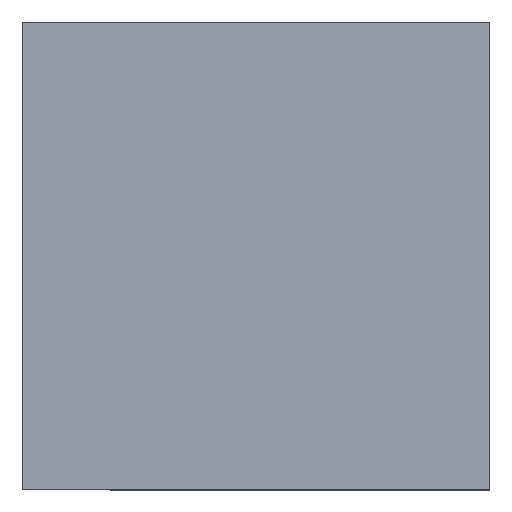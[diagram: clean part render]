
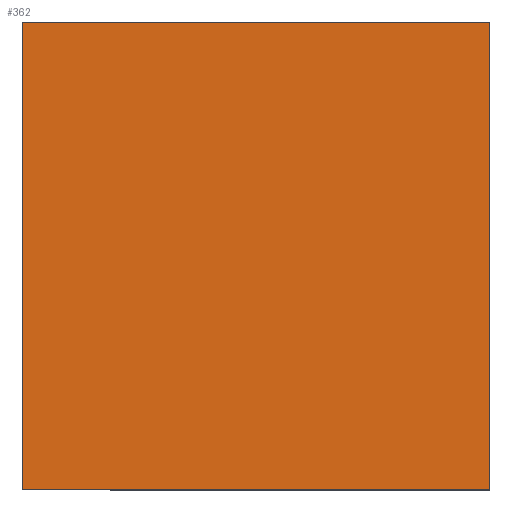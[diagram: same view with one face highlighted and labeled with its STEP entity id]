
A CAD part, top view. The second image highlights one B-rep face of the part: STEP entity #362.
In plain terms, the highlighted planar face has unit normal (0, 0, 1).
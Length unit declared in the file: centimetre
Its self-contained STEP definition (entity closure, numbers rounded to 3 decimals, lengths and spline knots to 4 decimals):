
#20 = LINE ( 'NONE', #364, #398 ) ;
#21 = VERTEX_POINT ( 'NONE', #138 ) ;
#22 = DIRECTION ( 'NONE',  ( -1., 0., 0. ) ) ;
#53 = ORIENTED_EDGE ( 'NONE', *, *, #129, .T. ) ;
#63 = DIRECTION ( 'NONE',  ( 0., -1., 0. ) ) ;
#75 = PLANE ( 'NONE',  #382 ) ;
#78 = CARTESIAN_POINT ( 'NONE',  ( 0., 0., 1000. ) ) ;
#112 = CARTESIAN_POINT ( 'NONE',  ( 1000., 1000., 1000. ) ) ;
#129 = EDGE_CURVE ( 'NONE', #21, #388, #402, .T. ) ;
#131 = VECTOR ( 'NONE', #367, 100. ) ;
#133 = EDGE_CURVE ( 'NONE', #161, #241, #20, .T. ) ;
#138 = CARTESIAN_POINT ( 'NONE',  ( 1000., 0., 1000. ) ) ;
#148 = FACE_OUTER_BOUND ( 'NONE', #416, .T. ) ;
#161 = VERTEX_POINT ( 'NONE', #468 ) ;
#172 = VECTOR ( 'NONE', #256, 100. ) ;
#180 = CARTESIAN_POINT ( 'NONE',  ( 1000., 1000., 1000. ) ) ;
#190 = DIRECTION ( 'NONE',  ( 0., 0., 1. ) ) ;
#201 = ORIENTED_EDGE ( 'NONE', *, *, #223, .T. ) ;
#223 = EDGE_CURVE ( 'NONE', #241, #21, #292, .T. ) ;
#226 = CARTESIAN_POINT ( 'NONE',  ( 0., 0., 1000. ) ) ;
#241 = VERTEX_POINT ( 'NONE', #78 ) ;
#256 = DIRECTION ( 'NONE',  ( 1., 0., 0. ) ) ;
#260 = DIRECTION ( 'NONE',  ( 1., 0., 0. ) ) ;
#292 = LINE ( 'NONE', #436, #172 ) ;
#312 = VECTOR ( 'NONE', #22, 100. ) ;
#317 = CARTESIAN_POINT ( 'NONE',  ( 0., 1000., 1000. ) ) ;
#357 = ORIENTED_EDGE ( 'NONE', *, *, #447, .T. ) ;
#362 = ADVANCED_FACE ( 'NONE', ( #148 ), #75, .T. ) ;
#364 = CARTESIAN_POINT ( 'NONE',  ( 0., 1000., 1000. ) ) ;
#367 = DIRECTION ( 'NONE',  ( 0., 1., 0. ) ) ;
#382 = AXIS2_PLACEMENT_3D ( 'NONE', #226, #190, #260 ) ;
#388 = VERTEX_POINT ( 'NONE', #112 ) ;
#398 = VECTOR ( 'NONE', #63, 100. ) ;
#402 = LINE ( 'NONE', #180, #131 ) ;
#415 = ORIENTED_EDGE ( 'NONE', *, *, #133, .T. ) ;
#416 = EDGE_LOOP ( 'NONE', ( #415, #201, #53, #357 ) ) ;
#436 = CARTESIAN_POINT ( 'NONE',  ( 0., 0., 1000. ) ) ;
#447 = EDGE_CURVE ( 'NONE', #388, #161, #460, .T. ) ;
#460 = LINE ( 'NONE', #317, #312 ) ;
#468 = CARTESIAN_POINT ( 'NONE',  ( 0., 1000., 1000. ) ) ;
